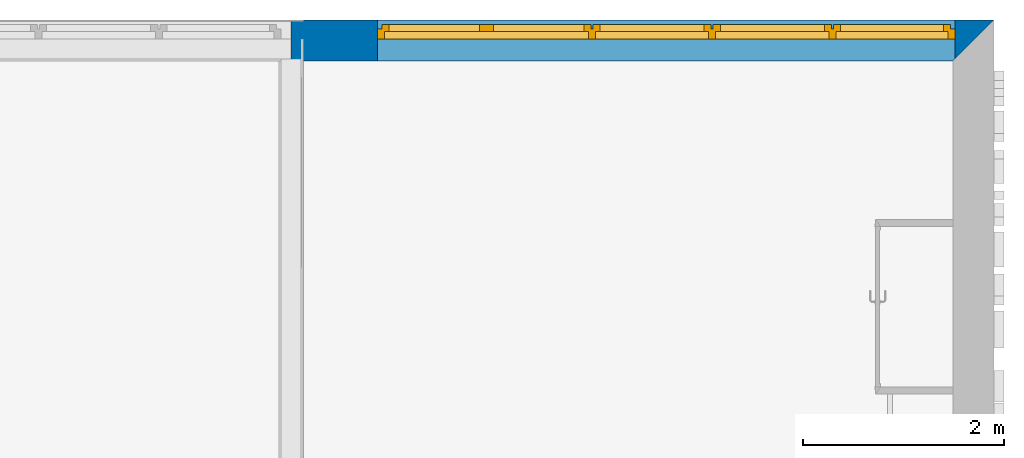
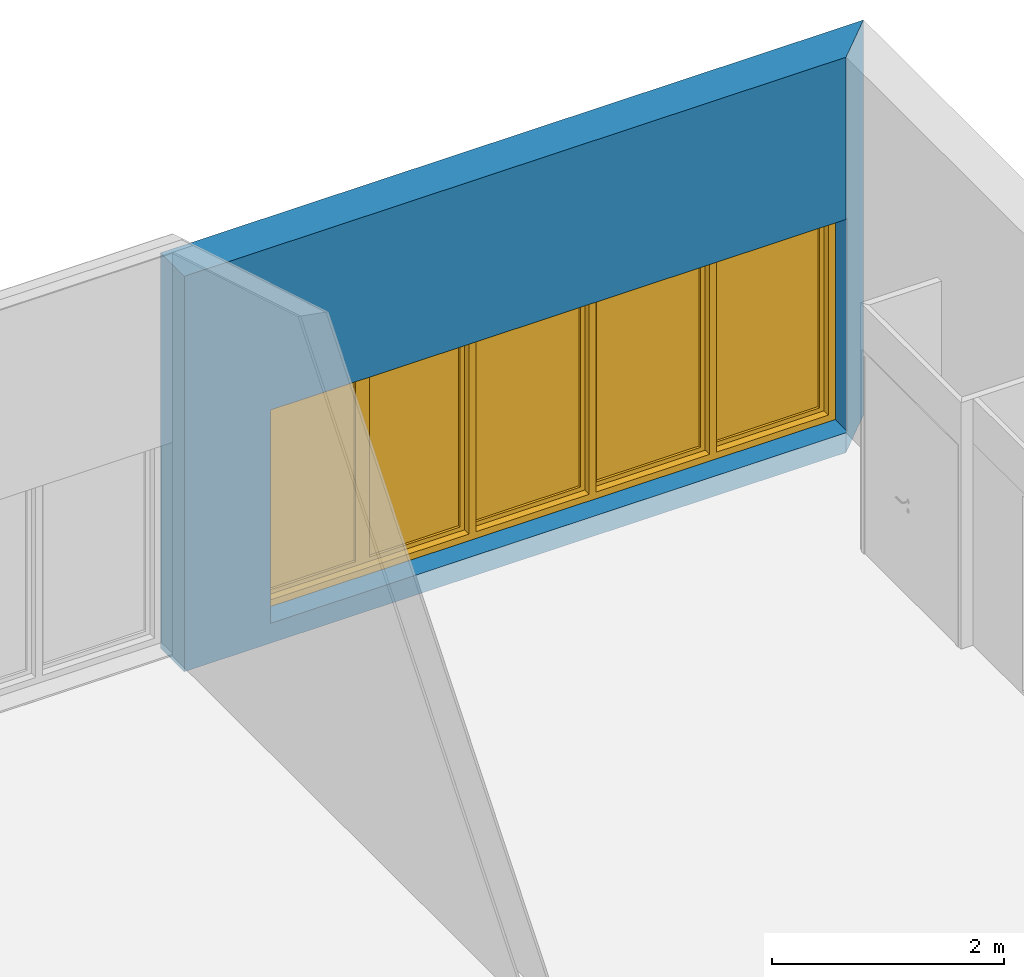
# One storey, part 6 of 34: 1 wall, 1 window, 1 opening.
"""IFC2X3 building model written with IfcOpenShell, lengths in metres."""

from ifc_helpers import new_model, entity, si_unit, converted_unit, derived_unit, money_unit, direction, frame, origin_with_axes, place, context, subcontext, project, spatial, polyline, outline, extrude, open_shell, faceted_brep, surface_model, source, transform, mapped, material, layer, layer_set, layer_usage, type_object, element, fill, save


model = new_model("IFC2X3")

# Units and contexts
model_context = context("Model", 3, precision=1e-05, world=origin_with_axes(), true_north=direction((0.0, 1.0)))
body_context = subcontext(model_context, "Body", "Model", "MODEL_VIEW")
ifc_project = project(units=[si_unit("LENGTHUNIT", "METRE"), si_unit("AREAUNIT", "SQUARE_METRE"), si_unit("VOLUMEUNIT", "CUBIC_METRE"), converted_unit("PLANEANGLEUNIT", "DEGREE", entity("IfcPlaneAngleMeasure", 0.0174532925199), si_unit("PLANEANGLEUNIT", "RADIAN"), dimensions=[0, 0, 0, 0, 0, 0, 0]), money_unit("CHF"), converted_unit("TIMEUNIT", "Year", entity("IfcTimeMeasure", 31556926.0), si_unit("TIMEUNIT", "SECOND"), dimensions=[0, 0, 1, 0, 0, 0, 0]), si_unit("MASSUNIT", "GRAM", prefix="KILO"), si_unit("THERMODYNAMICTEMPERATUREUNIT", "DEGREE_CELSIUS"), si_unit("LUMINOUSINTENSITYUNIT", "LUMEN"), si_unit("ENERGYUNIT", "JOULE", prefix="MEGA"), derived_unit("THERMALCONDUCTANCEUNIT", [(si_unit("POWERUNIT", "WATT"), 1), (si_unit("LENGTHUNIT", "METRE"), -1), (si_unit("THERMODYNAMICTEMPERATUREUNIT", "KELVIN"), -1)]), derived_unit("SPECIFICHEATCAPACITYUNIT", [(si_unit("ENERGYUNIT", "JOULE"), 1), (si_unit("MASSUNIT", "GRAM", prefix="KILO"), -1), (si_unit("THERMODYNAMICTEMPERATUREUNIT", "KELVIN"), -1)]), derived_unit("MASSDENSITYUNIT", [(si_unit("MASSUNIT", "GRAM", prefix="KILO"), 1), (si_unit("VOLUMEUNIT", "CUBIC_METRE"), -1)])], contexts=[model_context])

# Site, building, storey
site_placement = place(None, origin_with_axes())
site = spatial("IfcSite", under=ifc_project, at=site_placement, Name="Site", CompositionType="ELEMENT")
building_placement = place(site_placement, origin_with_axes())
building = spatial("IfcBuilding", under=site, at=building_placement, Name="Bâtiment", CompositionType="ELEMENT")
storey_placement = place(building_placement, origin_with_axes())
storey = spatial("IfcBuildingStorey", under=building, at=storey_placement, Name="Rez-de-chaussée", CompositionType="ELEMENT", Elevation=0.0)

# Wall, opening, window
ifc_material_1 = material(Name="Finition int - Enduit minéral")
ifc_layer_1 = layer(ifc_material_1, 0.01, ventilated="UNKNOWN")
ifc_material_2 = material(Name="Isolation - Fibres de bois")
ifc_layer_2 = layer(ifc_material_2, 0.18, ventilated="UNKNOWN")
ifc_material_3 = material(Name="Béton armé (Coulé)")
ifc_layer_3 = layer(ifc_material_3, 0.2, ventilated="UNKNOWN")
ifc_material_4 = material(Name="Finition int - Enduit plâtre")
ifc_layer_4 = layer(ifc_material_4, 0.02, ventilated="UNKNOWN")
ifc_layer_set = layer_set([ifc_layer_1, ifc_layer_2, ifc_layer_3, ifc_layer_4], Name="Mur 20cm + iso 18 + enduit")
ifc_layer_usage = layer_usage(ifc_layer_set, "AXIS2", "NEGATIVE", 0.29)
wall_type = type_object("IfcWallType", Name="Mur 20cm + iso 18 + enduit  410", PredefinedType="NOTDEFINED")
wall_placement = place(storey_placement, frame((32.1994697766, 25.2201256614, -0.21), z_axis=(0.0, 0.0, 1.0), x_axis=(1.0, 0.0, 0.0)))
wall = element("IfcWallStandardCase", 1, at=wall_placement, inside=storey, type_object=wall_type, material=ifc_layer_usage, Name="Mur ext 20+18isolant", context=body_context, shape_type="SweptSolid", body=[
    extrude(outline(polyline([(0.0, -0.12), (6.6, -0.12), (7.01, 0.29), (0.0, 0.29), (0.0, -0.12)])), origin_with_axes(), (0.0, 0.0, 1.0), 4.17),
])
opening_placement = place(wall_placement, frame((3.74, 0.0, 0.21), z_axis=(0.0, 0.0, 1.0), x_axis=(1.0, 0.0, 0.0)))
opening = element("IfcOpeningElement", 2, at=opening_placement, cuts=wall, Name="FENETRE-005", context=body_context, shape_type="Brep", body=[
    faceted_brep([(-2.88, 0.2, 0.0), (-2.88, 0.2, 2.25), (-2.88, 0.291, 2.25), (-2.88, 0.291, 0.0), (-2.88, -0.121, 0.0), (-2.88, -0.121, 2.25), (2.88, 0.2, 2.25), (2.88, 0.291, 2.25), (2.859, -0.121, 2.25), (2.88, -0.1, 2.25), (2.88, 0.291, 0.0), (2.88, 0.2, 0.0), (2.88, -0.1, 0.0), (2.859, -0.121, 0.0)], [[[0, 1, 2, 3]], [[1, 0, 4, 5]], [[6, 7, 2, 1, 5, 8, 9]], [[7, 10, 3, 2]], [[0, 3, 10, 11, 12, 13, 4]], [[5, 4, 13, 8]], [[6, 11, 10, 7]], [[8, 13, 12, 9]], [[11, 6, 9, 12]]]),
])
window_style = type_object("IfcWindowStyle", Name="Fenêtre horizontale à châssis multiples 26", ConstructionType="NOTDEFINED", OperationType="USERDEFINED", ParameterTakesPrecedence=False, Sizeable=False)
shared_shape = source(origin_with_axes(), body_context, "Body", "SurfaceModel", [
    faceted_brep([(-2.835, 0.0, 2.18), (-2.88, 0.0, 2.18), (-2.88, -0.1, 2.18), (-2.81, -0.1, 2.18), (-2.81, -0.025, 2.18), (-2.835, -0.025, 2.18), (-2.835, 0.0, 0.07), (-2.88, 0.0, 0.07), (-2.88, -0.1, 0.07), (-2.81, -0.1, 0.07), (-2.81, -0.025, 0.07), (-2.835, -0.025, 0.07)], [[[0, 1, 2, 3, 4, 5]], [[6, 7, 1, 0]], [[1, 7, 8, 2]], [[2, 8, 9, 3]], [[4, 3, 9, 10]], [[10, 11, 5, 4]], [[5, 11, 6, 0]], [[11, 10, 9, 8, 7, 6]]]),
    faceted_brep([(2.81, -0.025, 2.18), (2.81, -0.1, 2.18), (2.88, -0.1, 2.18), (2.88, 0.0, 2.18), (2.835, 0.0, 2.18), (2.835, -0.025, 2.18), (2.81, -0.025, 0.07), (2.81, -0.1, 0.07), (2.88, -0.1, 0.07), (2.88, 0.0, 0.07), (2.835, 0.0, 0.07), (2.835, -0.025, 0.07)], [[[0, 1, 2, 3, 4, 5]], [[6, 7, 1, 0]], [[8, 2, 1, 7]], [[9, 3, 2, 8]], [[4, 3, 9, 10]], [[10, 11, 5, 4]], [[5, 11, 6, 0]], [[11, 10, 9, 8, 7, 6]]]),
    faceted_brep([(0.47, 0.0, 2.18), (0.45, 0.0, 2.18), (0.45, 0.0, 2.205), (-0.73, 0.0, 2.205), (-0.73, 0.0, 2.18), (-0.75, 0.0, 2.18), (-0.75, 0.0, 2.205), (-2.835, 0.0, 2.205), (-2.835, 0.0, 2.18), (-2.88, 0.0, 2.18), (-2.88, 0.0, 2.25), (2.88, 0.0, 2.25), (2.88, 0.0, 2.18), (2.835, 0.0, 2.18), (2.835, 0.0, 2.205), (1.67, 0.0, 2.205), (1.67, 0.0, 2.18), (1.65, 0.0, 2.18), (1.65, 0.0, 2.205), (0.47, 0.0, 2.205), (0.47, -0.025, 2.18), (0.495, -0.025, 2.18), (0.495, -0.1, 2.18), (0.425, -0.1, 2.18), (0.425, -0.025, 2.18), (0.45, -0.025, 2.18), (0.45, -0.025, 2.205), (-0.73, -0.025, 2.205), (-0.73, -0.025, 2.18), (-0.705, -0.025, 2.18), (-0.705, -0.1, 2.18), (-0.775, -0.1, 2.18), (-0.775, -0.025, 2.18), (-0.75, -0.025, 2.18), (-0.75, -0.025, 2.205), (-2.835, -0.025, 2.205), (-2.835, -0.025, 2.18), (-2.81, -0.025, 2.18), (-2.81, -0.1, 2.18), (-2.88, -0.1, 2.18), (-2.88, -0.1, 2.25), (2.88, -0.1, 2.25), (2.88, -0.1, 2.18), (2.835, -0.025, 2.18), (2.81, -0.1, 2.18), (2.81, -0.025, 2.18), (2.835, -0.025, 2.205), (1.67, -0.025, 2.205), (1.67, -0.025, 2.18), (1.65, -0.025, 2.18), (1.695, -0.025, 2.18), (1.695, -0.1, 2.18), (1.625, -0.1, 2.18), (1.625, -0.025, 2.18), (1.65, -0.025, 2.205), (0.47, -0.025, 2.205)], [[[0, 1, 2, 3, 4, 5, 6, 7, 8, 9, 10, 11, 12, 13, 14, 15, 16, 17, 18, 19]], [[20, 21, 22, 23, 24, 25, 1, 0]], [[1, 25, 26, 2]], [[2, 26, 27, 3]], [[3, 27, 28, 4]], [[28, 29, 30, 31, 32, 33, 5, 4]], [[5, 33, 34, 6]], [[6, 34, 35, 7]], [[7, 35, 36, 8]], [[36, 37, 38, 39, 9, 8]], [[10, 9, 39, 40]], [[11, 10, 40, 41]], [[12, 11, 41, 42]], [[43, 13, 12, 42, 44, 45]], [[13, 43, 46, 14]], [[14, 46, 47, 15]], [[15, 47, 48, 16]], [[49, 17, 16, 48, 50, 51, 52, 53]], [[17, 49, 54, 18]], [[18, 54, 55, 19]], [[19, 55, 20, 0]], [[53, 21, 20, 55, 54, 49]], [[53, 52, 22, 21]], [[42, 41, 40, 39, 38, 31, 30, 23, 22, 52, 51, 44]], [[24, 23, 30, 29]], [[24, 29, 28, 27, 26, 25]], [[32, 31, 38, 37]], [[32, 37, 36, 35, 34, 33]], [[45, 44, 51, 50]], [[45, 50, 48, 47, 46, 43]]]),
    faceted_brep([(1.625, -0.025, 0.07), (1.625, -0.1, 0.07), (1.695, -0.1, 0.07), (1.695, -0.025, 0.07), (1.67, -0.025, 0.07), (1.67, 0.0, 0.07), (1.65, 0.0, 0.07), (1.65, -0.025, 0.07), (0.495, -0.025, 0.07), (0.495, -0.1, 0.07), (0.425, -0.1, 0.07), (-0.705, -0.1, 0.07), (-0.775, -0.1, 0.07), (-2.81, -0.1, 0.07), (-2.88, -0.1, 0.07), (-2.88, -0.1, 0.0), (2.88, -0.1, 0.0), (2.88, -0.1, 0.07), (2.81, -0.1, 0.07), (2.81, -0.025, 0.07), (2.835, -0.025, 0.07), (2.835, -0.025, 0.045), (1.67, -0.025, 0.045), (1.67, 0.0, 0.045), (0.47, 0.0, 0.045), (1.65, 0.0, 0.045), (2.835, 0.0, 0.045), (2.835, 0.0, 0.07), (2.88, 0.0, 0.07), (2.88, 0.0, 0.0), (-2.88, 0.0, 0.0), (-2.88, 0.0, 0.07), (-2.835, 0.0, 0.07), (-2.835, 0.0, 0.045), (-0.75, 0.0, 0.045), (-0.75, 0.0, 0.07), (-0.73, 0.0, 0.07), (-0.73, 0.0, 0.045), (0.45, 0.0, 0.045), (0.45, 0.0, 0.07), (0.47, 0.0, 0.07), (1.65, -0.025, 0.045), (0.47, -0.025, 0.045), (0.47, -0.025, 0.07), (0.45, -0.025, 0.07), (0.425, -0.025, 0.07), (-0.705, -0.025, 0.07), (-0.73, -0.025, 0.07), (-0.75, -0.025, 0.07), (-0.775, -0.025, 0.07), (-2.81, -0.025, 0.07), (-2.835, -0.025, 0.07), (-2.835, -0.025, 0.045), (-0.75, -0.025, 0.045), (-0.73, -0.025, 0.045), (0.45, -0.025, 0.045)], [[[0, 1, 2, 3, 4, 5, 6, 7]], [[8, 9, 1, 0]], [[1, 9, 10, 11, 12, 13, 14, 15, 16, 17, 18, 2]], [[3, 2, 18, 19]], [[20, 21, 22, 4, 3, 19]], [[4, 22, 23, 5]], [[24, 25, 6, 5, 23, 26, 27, 28, 29, 30, 31, 32, 33, 34, 35, 36, 37, 38, 39, 40]], [[25, 41, 7, 6]], [[7, 41, 42, 43, 8, 0]], [[43, 40, 39, 44, 45, 10, 9, 8]], [[46, 11, 10, 45]], [[47, 36, 35, 48, 49, 12, 11, 46]], [[50, 13, 12, 49]], [[51, 32, 31, 14, 13, 50]], [[31, 30, 15, 14]], [[30, 29, 16, 15]], [[29, 28, 17, 16]], [[19, 18, 17, 28, 27, 20]], [[26, 21, 20, 27]], [[23, 22, 21, 26]], [[24, 42, 41, 25]], [[51, 52, 33, 32]], [[33, 52, 53, 34]], [[34, 53, 48, 35]], [[47, 54, 37, 36]], [[37, 54, 55, 38]], [[38, 55, 44, 39]], [[43, 42, 24, 40]], [[44, 55, 54, 47, 46, 45]], [[48, 53, 52, 51, 50, 49]]]),
    faceted_brep([(-0.73, 0.0, 2.18), (-0.75, 0.0, 2.18), (-0.75, -0.025, 2.18), (-0.775, -0.025, 2.18), (-0.775, -0.1, 2.18), (-0.705, -0.1, 2.18), (-0.705, -0.025, 2.18), (-0.73, -0.025, 2.18), (-0.73, 0.0, 0.07), (-0.75, 0.0, 0.07), (-0.75, -0.025, 0.07), (-0.775, -0.025, 0.07), (-0.775, -0.1, 0.07), (-0.705, -0.1, 0.07), (-0.705, -0.025, 0.07), (-0.73, -0.025, 0.07)], [[[0, 1, 2, 3, 4, 5, 6, 7]], [[8, 9, 1, 0]], [[9, 10, 2, 1]], [[2, 10, 11, 3]], [[11, 12, 4, 3]], [[5, 4, 12, 13]], [[6, 5, 13, 14]], [[14, 15, 7, 6]], [[7, 15, 8, 0]], [[15, 14, 13, 12, 11, 10, 9, 8]]]),
    faceted_brep([(0.47, 0.0, 2.18), (0.45, 0.0, 2.18), (0.45, -0.025, 2.18), (0.425, -0.025, 2.18), (0.425, -0.1, 2.18), (0.495, -0.1, 2.18), (0.495, -0.025, 2.18), (0.47, -0.025, 2.18), (0.47, 0.0, 0.07), (0.45, 0.0, 0.07), (0.45, -0.025, 0.07), (0.425, -0.025, 0.07), (0.425, -0.1, 0.07), (0.495, -0.1, 0.07), (0.495, -0.025, 0.07), (0.47, -0.025, 0.07)], [[[0, 1, 2, 3, 4, 5, 6, 7]], [[8, 9, 1, 0]], [[9, 10, 2, 1]], [[2, 10, 11, 3]], [[11, 12, 4, 3]], [[5, 4, 12, 13]], [[6, 5, 13, 14]], [[14, 15, 7, 6]], [[7, 15, 8, 0]], [[15, 14, 13, 12, 11, 10, 9, 8]]]),
    faceted_brep([(1.625, -0.025, 2.18), (1.625, -0.1, 2.18), (1.695, -0.1, 2.18), (1.695, -0.025, 2.18), (1.67, -0.025, 2.18), (1.67, 0.0, 2.18), (1.65, 0.0, 2.18), (1.65, -0.025, 2.18), (1.625, -0.025, 0.07), (1.625, -0.1, 0.07), (1.695, -0.1, 0.07), (1.695, -0.025, 0.07), (1.67, -0.025, 0.07), (1.67, 0.0, 0.07), (1.65, 0.0, 0.07), (1.65, -0.025, 0.07)], [[[0, 1, 2, 3, 4, 5, 6, 7]], [[8, 9, 1, 0]], [[2, 1, 9, 10]], [[3, 2, 10, 11]], [[11, 12, 4, 3]], [[4, 12, 13, 5]], [[6, 5, 13, 14]], [[14, 15, 7, 6]], [[7, 15, 8, 0]], [[15, 14, 13, 12, 11, 10, 9, 8]]]),
    faceted_brep([(-1.7225, -0.025, 2.135), (-1.7225, 0.045, 2.135), (-1.7925, 0.045, 2.135), (-1.7925, -0.025, 2.135), (-1.7225, -0.025, 0.115), (-1.7225, 0.045, 0.115), (-1.7925, 0.045, 0.115), (-1.7925, -0.025, 0.115)], [[[0, 1, 2, 3]], [[4, 5, 1, 0]], [[1, 5, 6, 2]], [[3, 2, 6, 7]], [[0, 3, 7, 4]], [[7, 6, 5, 4]]]),
    faceted_brep([(-0.82, -0.025, 0.115), (-0.82, 0.045, 0.115), (-0.75, 0.045, 0.115), (-0.75, -0.025, 0.115), (-0.82, -0.025, 2.135), (-0.82, 0.045, 2.135), (-0.75, 0.045, 2.135), (-0.75, -0.025, 2.135)], [[[0, 1, 2, 3]], [[4, 5, 1, 0]], [[1, 5, 6, 2]], [[3, 2, 6, 7]], [[0, 3, 7, 4]], [[7, 6, 5, 4]]]),
    faceted_brep([(-0.75, -0.025, 0.045), (-0.75, 0.045, 0.045), (-0.75, 0.045, 0.115), (-0.75, -0.025, 0.115), (-1.7925, -0.025, 0.045), (-1.7925, 0.045, 0.045), (-1.7925, 0.045, 0.115), (-1.7225, 0.045, 0.115), (-0.82, 0.045, 0.115), (-0.82, -0.025, 0.115), (-1.7225, -0.025, 0.115), (-1.7925, -0.025, 0.115)], [[[0, 1, 2, 3]], [[4, 5, 1, 0]], [[1, 5, 6, 7, 8, 2]], [[3, 2, 8, 9]], [[0, 3, 9, 10, 11, 4]], [[11, 6, 5, 4]], [[10, 7, 6, 11]], [[9, 8, 7, 10]]]),
    faceted_brep([(-1.7925, -0.025, 2.205), (-1.7925, 0.045, 2.205), (-1.7925, 0.045, 2.135), (-1.7925, -0.025, 2.135), (-0.75, -0.025, 2.205), (-0.75, 0.045, 2.205), (-0.75, 0.045, 2.135), (-0.82, 0.045, 2.135), (-1.7225, 0.045, 2.135), (-1.7225, -0.025, 2.135), (-0.82, -0.025, 2.135), (-0.75, -0.025, 2.135)], [[[0, 1, 2, 3]], [[4, 5, 1, 0]], [[1, 5, 6, 7, 8, 2]], [[3, 2, 8, 9]], [[0, 3, 9, 10, 11, 4]], [[11, 6, 5, 4]], [[10, 7, 6, 11]], [[9, 8, 7, 10]]]),
    surface_model("IfcShellBasedSurfaceModel", [(-1.7225, 0.0, 0.115), (-0.82, 0.0, 0.115), (-0.82, 0.0, 2.135), (-1.7225, 0.0, 2.135)], [open_shell([[[0, 1, 2, 3]]])]),
    surface_model("IfcShellBasedSurfaceModel", [(-1.7225, 0.02, 0.115), (-1.7225, 0.02, 2.135), (-0.82, 0.02, 2.135), (-0.82, 0.02, 0.115)], [open_shell([[[0, 1, 2, 3]]])]),
    faceted_brep([(-2.765, -0.025, 2.135), (-2.765, 0.045, 2.135), (-2.835, 0.045, 2.135), (-2.835, -0.025, 2.135), (-2.765, -0.025, 0.115), (-2.765, 0.045, 0.115), (-2.835, 0.045, 0.115), (-2.835, -0.025, 0.115)], [[[0, 1, 2, 3]], [[4, 5, 1, 0]], [[1, 5, 6, 2]], [[3, 2, 6, 7]], [[0, 3, 7, 4]], [[7, 6, 5, 4]]]),
    faceted_brep([(-1.8625, -0.025, 0.115), (-1.8625, 0.045, 0.115), (-1.7925, 0.045, 0.115), (-1.7925, -0.025, 0.115), (-1.8625, -0.025, 2.135), (-1.8625, 0.045, 2.135), (-1.7925, 0.045, 2.135), (-1.7925, -0.025, 2.135)], [[[0, 1, 2, 3]], [[4, 5, 1, 0]], [[1, 5, 6, 2]], [[3, 2, 6, 7]], [[0, 3, 7, 4]], [[7, 6, 5, 4]]]),
    faceted_brep([(-1.7925, -0.025, 0.045), (-1.7925, 0.045, 0.045), (-1.7925, 0.045, 0.115), (-1.7925, -0.025, 0.115), (-2.835, -0.025, 0.045), (-2.835, 0.045, 0.045), (-2.835, 0.045, 0.115), (-2.765, 0.045, 0.115), (-1.8625, 0.045, 0.115), (-1.8625, -0.025, 0.115), (-2.765, -0.025, 0.115), (-2.835, -0.025, 0.115)], [[[0, 1, 2, 3]], [[4, 5, 1, 0]], [[1, 5, 6, 7, 8, 2]], [[3, 2, 8, 9]], [[0, 3, 9, 10, 11, 4]], [[11, 6, 5, 4]], [[10, 7, 6, 11]], [[9, 8, 7, 10]]]),
    faceted_brep([(-2.835, -0.025, 2.205), (-2.835, 0.045, 2.205), (-2.835, 0.045, 2.135), (-2.835, -0.025, 2.135), (-1.7925, -0.025, 2.205), (-1.7925, 0.045, 2.205), (-1.7925, 0.045, 2.135), (-1.8625, 0.045, 2.135), (-2.765, 0.045, 2.135), (-2.765, -0.025, 2.135), (-1.8625, -0.025, 2.135), (-1.7925, -0.025, 2.135)], [[[0, 1, 2, 3]], [[4, 5, 1, 0]], [[1, 5, 6, 7, 8, 2]], [[3, 2, 8, 9]], [[0, 3, 9, 10, 11, 4]], [[11, 6, 5, 4]], [[10, 7, 6, 11]], [[9, 8, 7, 10]]]),
    surface_model("IfcShellBasedSurfaceModel", [(-2.765, 0.0, 0.115), (-1.8625, 0.0, 0.115), (-1.8625, 0.0, 2.135), (-2.765, 0.0, 2.135)], [open_shell([[[0, 1, 2, 3]]])]),
    surface_model("IfcShellBasedSurfaceModel", [(-2.765, 0.02, 0.115), (-2.765, 0.02, 2.135), (-1.8625, 0.02, 2.135), (-1.8625, 0.02, 0.115)], [open_shell([[[0, 1, 2, 3]]])]),
    faceted_brep([(-0.66, -0.025, 2.135), (-0.66, 0.045, 2.135), (-0.73, 0.045, 2.135), (-0.73, -0.025, 2.135), (-0.66, -0.025, 0.115), (-0.66, 0.045, 0.115), (-0.73, 0.045, 0.115), (-0.73, -0.025, 0.115)], [[[0, 1, 2, 3]], [[4, 5, 1, 0]], [[1, 5, 6, 2]], [[3, 2, 6, 7]], [[0, 3, 7, 4]], [[7, 6, 5, 4]]]),
    faceted_brep([(0.38, -0.025, 0.115), (0.38, 0.045, 0.115), (0.45, 0.045, 0.115), (0.45, -0.025, 0.115), (0.38, -0.025, 2.135), (0.38, 0.045, 2.135), (0.45, 0.045, 2.135), (0.45, -0.025, 2.135)], [[[0, 1, 2, 3]], [[4, 5, 1, 0]], [[1, 5, 6, 2]], [[3, 2, 6, 7]], [[0, 3, 7, 4]], [[7, 6, 5, 4]]]),
    faceted_brep([(0.45, -0.025, 0.045), (0.45, 0.045, 0.045), (0.45, 0.045, 0.115), (0.45, -0.025, 0.115), (-0.73, -0.025, 0.045), (-0.73, 0.045, 0.045), (-0.73, 0.045, 0.115), (-0.66, 0.045, 0.115), (0.38, 0.045, 0.115), (0.38, -0.025, 0.115), (-0.66, -0.025, 0.115), (-0.73, -0.025, 0.115)], [[[0, 1, 2, 3]], [[4, 5, 1, 0]], [[1, 5, 6, 7, 8, 2]], [[3, 2, 8, 9]], [[0, 3, 9, 10, 11, 4]], [[11, 6, 5, 4]], [[10, 7, 6, 11]], [[9, 8, 7, 10]]]),
    faceted_brep([(-0.73, -0.025, 2.205), (-0.73, 0.045, 2.205), (-0.73, 0.045, 2.135), (-0.73, -0.025, 2.135), (0.45, -0.025, 2.205), (0.45, 0.045, 2.205), (0.45, 0.045, 2.135), (0.38, 0.045, 2.135), (-0.66, 0.045, 2.135), (-0.66, -0.025, 2.135), (0.38, -0.025, 2.135), (0.45, -0.025, 2.135)], [[[0, 1, 2, 3]], [[4, 5, 1, 0]], [[1, 5, 6, 7, 8, 2]], [[3, 2, 8, 9]], [[0, 3, 9, 10, 11, 4]], [[11, 6, 5, 4]], [[10, 7, 6, 11]], [[9, 8, 7, 10]]]),
    surface_model("IfcShellBasedSurfaceModel", [(-0.66, 0.0, 0.115), (0.38, 0.0, 0.115), (0.38, 0.0, 2.135), (-0.66, 0.0, 2.135)], [open_shell([[[0, 1, 2, 3]]])]),
    surface_model("IfcShellBasedSurfaceModel", [(-0.66, 0.02, 0.115), (-0.66, 0.02, 2.135), (0.38, 0.02, 2.135), (0.38, 0.02, 0.115)], [open_shell([[[0, 1, 2, 3]]])]),
    faceted_brep([(0.54, -0.025, 2.135), (0.54, 0.045, 2.135), (0.47, 0.045, 2.135), (0.47, -0.025, 2.135), (0.54, -0.025, 0.115), (0.54, 0.045, 0.115), (0.47, 0.045, 0.115), (0.47, -0.025, 0.115)], [[[0, 1, 2, 3]], [[4, 5, 1, 0]], [[1, 5, 6, 2]], [[3, 2, 6, 7]], [[0, 3, 7, 4]], [[7, 6, 5, 4]]]),
    faceted_brep([(1.58, -0.025, 0.115), (1.58, 0.045, 0.115), (1.65, 0.045, 0.115), (1.65, -0.025, 0.115), (1.58, -0.025, 2.135), (1.58, 0.045, 2.135), (1.65, 0.045, 2.135), (1.65, -0.025, 2.135)], [[[0, 1, 2, 3]], [[4, 5, 1, 0]], [[1, 5, 6, 2]], [[3, 2, 6, 7]], [[0, 3, 7, 4]], [[7, 6, 5, 4]]]),
    faceted_brep([(1.65, -0.025, 0.045), (1.65, 0.045, 0.045), (1.65, 0.045, 0.115), (1.65, -0.025, 0.115), (0.47, -0.025, 0.045), (0.47, 0.045, 0.045), (0.47, 0.045, 0.115), (0.54, 0.045, 0.115), (1.58, 0.045, 0.115), (1.58, -0.025, 0.115), (0.54, -0.025, 0.115), (0.47, -0.025, 0.115)], [[[0, 1, 2, 3]], [[4, 5, 1, 0]], [[1, 5, 6, 7, 8, 2]], [[3, 2, 8, 9]], [[0, 3, 9, 10, 11, 4]], [[11, 6, 5, 4]], [[10, 7, 6, 11]], [[9, 8, 7, 10]]]),
    faceted_brep([(0.47, -0.025, 2.205), (0.47, 0.045, 2.205), (0.47, 0.045, 2.135), (0.47, -0.025, 2.135), (1.65, -0.025, 2.205), (1.65, 0.045, 2.205), (1.65, 0.045, 2.135), (1.58, 0.045, 2.135), (0.54, 0.045, 2.135), (0.54, -0.025, 2.135), (1.58, -0.025, 2.135), (1.65, -0.025, 2.135)], [[[0, 1, 2, 3]], [[4, 5, 1, 0]], [[1, 5, 6, 7, 8, 2]], [[3, 2, 8, 9]], [[0, 3, 9, 10, 11, 4]], [[11, 6, 5, 4]], [[10, 7, 6, 11]], [[9, 8, 7, 10]]]),
    surface_model("IfcShellBasedSurfaceModel", [(0.54, 0.0, 0.115), (1.58, 0.0, 0.115), (1.58, 0.0, 2.135), (0.54, 0.0, 2.135)], [open_shell([[[0, 1, 2, 3]]])]),
    surface_model("IfcShellBasedSurfaceModel", [(0.54, 0.02, 0.115), (0.54, 0.02, 2.135), (1.58, 0.02, 2.135), (1.58, 0.02, 0.115)], [open_shell([[[0, 1, 2, 3]]])]),
    faceted_brep([(1.74, -0.025, 2.135), (1.74, 0.045, 2.135), (1.67, 0.045, 2.135), (1.67, -0.025, 2.135), (1.74, -0.025, 0.115), (1.74, 0.045, 0.115), (1.67, 0.045, 0.115), (1.67, -0.025, 0.115)], [[[0, 1, 2, 3]], [[4, 5, 1, 0]], [[1, 5, 6, 2]], [[3, 2, 6, 7]], [[0, 3, 7, 4]], [[7, 6, 5, 4]]]),
    faceted_brep([(2.765, -0.025, 0.115), (2.765, 0.045, 0.115), (2.835, 0.045, 0.115), (2.835, -0.025, 0.115), (2.765, -0.025, 2.135), (2.765, 0.045, 2.135), (2.835, 0.045, 2.135), (2.835, -0.025, 2.135)], [[[0, 1, 2, 3]], [[4, 5, 1, 0]], [[1, 5, 6, 2]], [[3, 2, 6, 7]], [[0, 3, 7, 4]], [[7, 6, 5, 4]]]),
    faceted_brep([(2.835, -0.025, 0.045), (2.835, 0.045, 0.045), (2.835, 0.045, 0.115), (2.835, -0.025, 0.115), (1.67, -0.025, 0.045), (1.67, 0.045, 0.045), (1.67, 0.045, 0.115), (1.74, 0.045, 0.115), (2.765, 0.045, 0.115), (2.765, -0.025, 0.115), (1.74, -0.025, 0.115), (1.67, -0.025, 0.115)], [[[0, 1, 2, 3]], [[4, 5, 1, 0]], [[1, 5, 6, 7, 8, 2]], [[3, 2, 8, 9]], [[0, 3, 9, 10, 11, 4]], [[11, 6, 5, 4]], [[10, 7, 6, 11]], [[9, 8, 7, 10]]]),
    faceted_brep([(1.67, -0.025, 2.205), (1.67, 0.045, 2.205), (1.67, 0.045, 2.135), (1.67, -0.025, 2.135), (2.835, -0.025, 2.205), (2.835, 0.045, 2.205), (2.835, 0.045, 2.135), (2.765, 0.045, 2.135), (1.74, 0.045, 2.135), (1.74, -0.025, 2.135), (2.765, -0.025, 2.135), (2.835, -0.025, 2.135)], [[[0, 1, 2, 3]], [[4, 5, 1, 0]], [[1, 5, 6, 7, 8, 2]], [[3, 2, 8, 9]], [[0, 3, 9, 10, 11, 4]], [[11, 6, 5, 4]], [[10, 7, 6, 11]], [[9, 8, 7, 10]]]),
    surface_model("IfcShellBasedSurfaceModel", [(1.74, 0.0, 0.115), (2.765, 0.0, 0.115), (2.765, 0.0, 2.135), (1.74, 0.0, 2.135)], [open_shell([[[0, 1, 2, 3]]])]),
    surface_model("IfcShellBasedSurfaceModel", [(1.74, 0.02, 0.115), (1.74, 0.02, 2.135), (2.765, 0.02, 2.135), (2.765, 0.02, 0.115)], [open_shell([[[0, 1, 2, 3]]])]),
])
window_placement = place(opening_placement, frame((-2.88, 0.0, 0.0), z_axis=(0.0, 0.0, 1.0), x_axis=(1.0, 0.0, 0.0)))
window = element("IfcWindow", 3, at=window_placement, inside=storey, type_object=window_style, Name="FENETRE-005", ObjectType="WINDOW", OverallHeight=2.25, OverallWidth=5.76, context=body_context, shape_type="MappedRepresentation", body=[
    mapped(shared_shape, transform((2.88, 0.2, 0.0))),
])
fill(opening, window)

save(model, "model.ifc")
